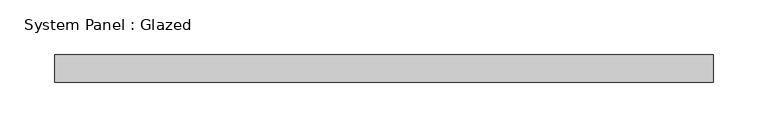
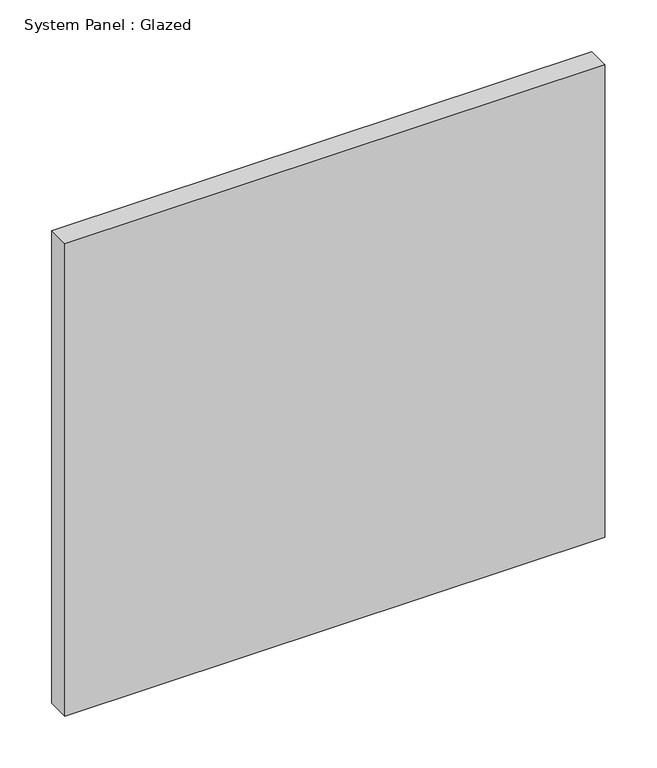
"""IFC4 building model written with IfcOpenShell, lengths in millimetres: plate geometry, System Panel : Glazed."""

from ifc_helpers import new_model, si_unit, origin, origin_with_axes, place, context, project, spatial, polyline, outline, extrude, source, transform, mapped, element, save


def system_panel_glazed_f888302b(model_context):
    return source(origin(), model_context, "Body", "SweptSolid", [
        extrude(outline(polyline([(301.9657465, -12.7), (-301.9657465, -12.7), (-301.9657465, 12.7), (301.9657465, 12.7), (301.9657465, -12.7)])), origin_with_axes(), (0.0, 0.0, 1.0), 558.8),
    ])


if __name__ == "__main__":
    model = new_model("IFC4")
    model_context = context("Model", 3, world=origin())
    ifc_project = project(units=[si_unit("LENGTHUNIT", "METRE", prefix="MILLI")], contexts=[model_context])
    site = spatial("IfcSite", under=ifc_project)
    building = spatial("IfcBuilding", under=site)
    placement = place(None, origin())
    system_panel_glazed_shape = system_panel_glazed_f888302b(model_context)
    element("IfcPlate", 1, ObjectType="System Panel : Glazed", at=placement, inside=building, context=model_context, shape_type="MappedRepresentation", body=[
        mapped(system_panel_glazed_shape, transform((0.0, 0.0, 0.0), x_axis=(1.0, 0.0, 0.0), y_axis=(0.0, 1.0, 0.0), z_axis=(0.0, 0.0, 1.0))),
    ])
    save(model, "model.ifc")
